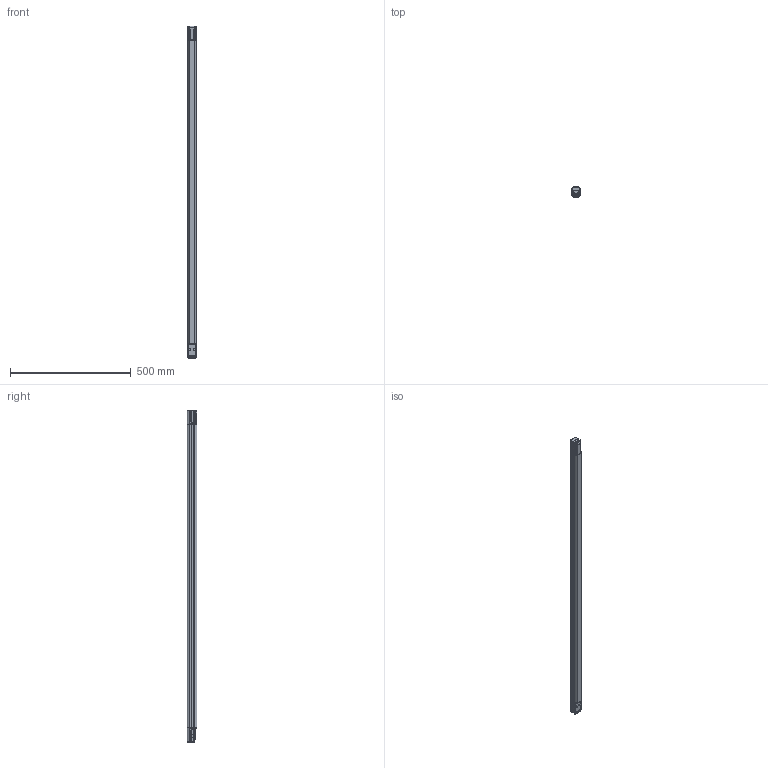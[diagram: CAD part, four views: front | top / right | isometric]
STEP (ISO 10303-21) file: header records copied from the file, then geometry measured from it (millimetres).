
FILE_DESCRIPTION(/* description */ (''),/* implementation_level */ '2;1');
FILE_NAME(/* name */ 'DSD-1129 SH4-P4-120.stp',/* time_stamp */ '2023-01-12T14:39:22+01:00',/* author */ (''),/* organization */ (''),/* preprocessor_version */ 'ST-DEVELOPER v16.701',/* originating_system */ 'SIEMENS PLM Software NX 1946',/* authorisation */ '');
FILE_SCHEMA (('AUTOMOTIVE_DESIGN { 1 0 10303 214 3 1 1 1 }'));
Length unit declared in the file: millimetre
Products named in the file (1): FGut5B4C7397d7jw
Bounding box: 35.08 x 40 x 1374 mm (x, y, z)
Volume: 1611699.3 mm3; surface area: 318472.5 mm2
Topology: 6 solids, 11 shells, 891 faces, 2383 edges, 1504 vertices
Faces by surface type: plane 363, cylinder 315, bspline 92, cone 55, extrusion 24, sphere 22, torus 20
Full cylindrical faces by diameter (mm): 2.013 x4, 2.2 x4, 3 x4, 4.37 x4, 5 x8
Entity records: 34929 total; most frequent: CARTESIAN_POINT 13568, ORIENTED_EDGE 4486, DIRECTION 3865, EDGE_CURVE 2243, VERTEX_POINT 1470, AXIS2_PLACEMENT_3D 1345, VECTOR 1175, LINE 1151
